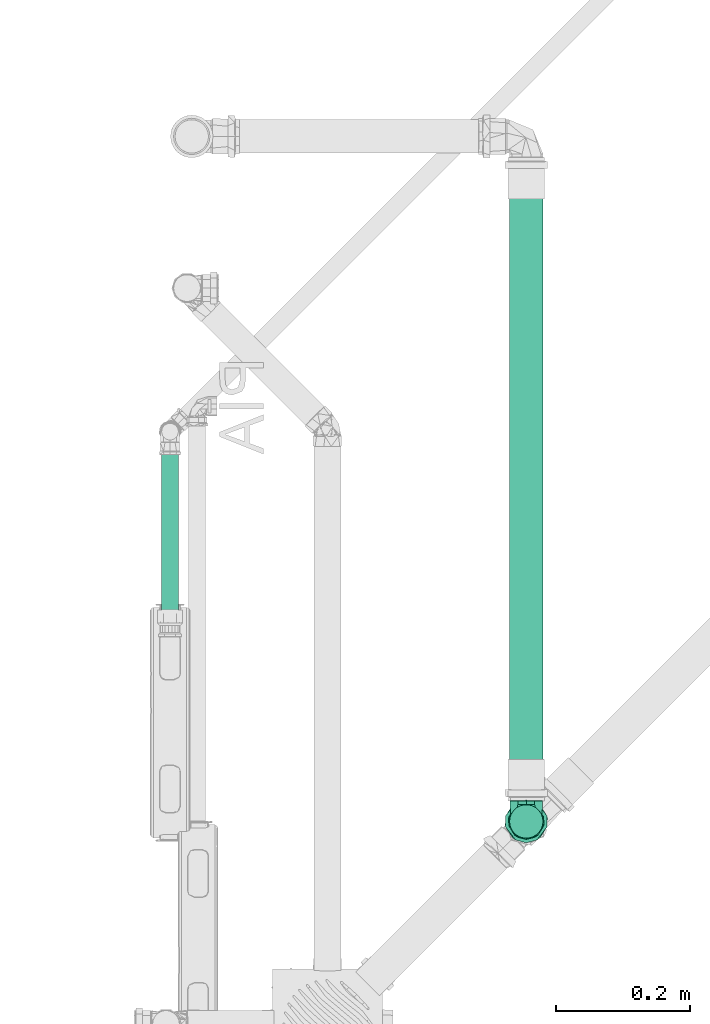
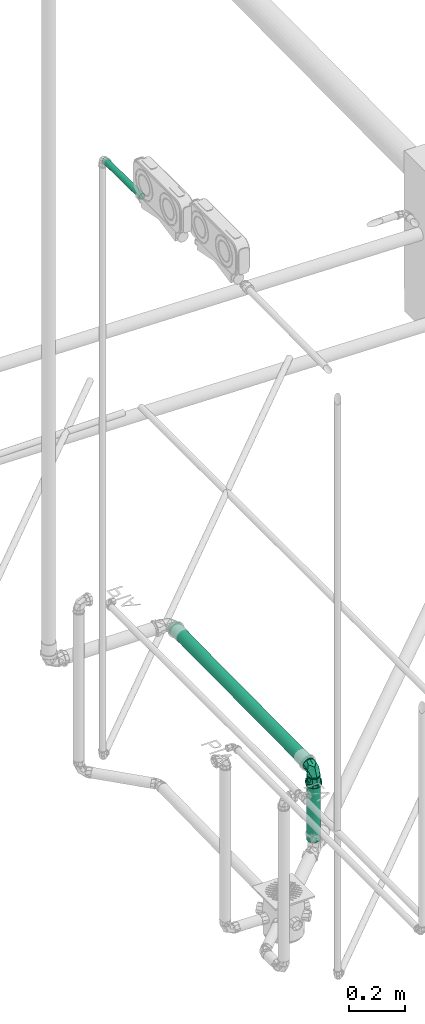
# One storey, part 199 of 589: 3 flow segments, 1 flow fitting.
"""IFC2X3 building model written with IfcOpenShell, lengths in millimetres."""

from ifc_helpers import new_model, entity, si_unit, converted_unit, derived_unit, direction, frame, frame_2d, origin, origin_2d_with_axis, place, context, subcontext, project, spatial, circle, extrude, faceted_brep, source, transform, mapped, material, type_object, type_shapes, element, save


model = new_model("IFC2X3")

# Units and contexts
model_context = context("Model", 3, precision=0.01, world=origin(), true_north=direction((6.123031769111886e-17, 1.0)))
body_context = subcontext(model_context, "Body", "Model", "MODEL_VIEW")
ifc_project = project(units=[si_unit("LENGTHUNIT", "METRE", prefix="MILLI"), si_unit("AREAUNIT", "SQUARE_METRE"), si_unit("VOLUMEUNIT", "CUBIC_METRE"), converted_unit("PLANEANGLEUNIT", "DEGREE", entity("IfcRatioMeasure", 0.017453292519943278), si_unit("PLANEANGLEUNIT", "RADIAN"), dimensions=[0, 0, 0, 0, 0, 0, 0]), si_unit("MASSUNIT", "GRAM", prefix="KILO"), derived_unit("MASSDENSITYUNIT", [(si_unit("MASSUNIT", "GRAM", prefix="KILO"), 1), (si_unit("LENGTHUNIT", "METRE"), -3)]), derived_unit("IONCONCENTRATIONUNIT", [(si_unit("MASSUNIT", "GRAM", prefix="KILO"), 1), (si_unit("LENGTHUNIT", "METRE"), -3)]), derived_unit("MOMENTOFINERTIAUNIT", [(si_unit("LENGTHUNIT", "METRE"), 4)]), si_unit("TIMEUNIT", "SECOND"), si_unit("FREQUENCYUNIT", "HERTZ"), si_unit("THERMODYNAMICTEMPERATUREUNIT", "DEGREE_CELSIUS"), derived_unit("THERMALTRANSMITTANCEUNIT", [(si_unit("MASSUNIT", "GRAM", prefix="KILO"), 1), (si_unit("THERMODYNAMICTEMPERATUREUNIT", "KELVIN"), -1), (si_unit("TIMEUNIT", "SECOND"), -3)]), derived_unit("THERMALCONDUCTANCEUNIT", [(si_unit("MASSUNIT", "GRAM", prefix="KILO"), 1), (si_unit("THERMODYNAMICTEMPERATUREUNIT", "KELVIN"), -1), (si_unit("TIMEUNIT", "SECOND"), -3), (si_unit("LENGTHUNIT", "METRE"), 1)]), derived_unit("VOLUMETRICFLOWRATEUNIT", [(si_unit("LENGTHUNIT", "METRE"), 3), (si_unit("TIMEUNIT", "SECOND"), -1)]), derived_unit("MASSFLOWRATEUNIT", [(si_unit("MASSUNIT", "GRAM", prefix="KILO"), 1), (si_unit("TIMEUNIT", "SECOND"), -1)]), derived_unit("ROTATIONALFREQUENCYUNIT", [(si_unit("TIMEUNIT", "SECOND"), -1)]), si_unit("ELECTRICCURRENTUNIT", "AMPERE"), si_unit("ELECTRICVOLTAGEUNIT", "VOLT"), si_unit("POWERUNIT", "WATT"), si_unit("FORCEUNIT", "NEWTON", prefix="KILO"), si_unit("ILLUMINANCEUNIT", "LUX"), si_unit("LUMINOUSFLUXUNIT", "LUMEN"), si_unit("LUMINOUSINTENSITYUNIT", "CANDELA"), derived_unit("USERDEFINED", [(si_unit("MASSUNIT", "GRAM", prefix="KILO"), -1), (si_unit("LENGTHUNIT", "METRE"), -2), (si_unit("TIMEUNIT", "SECOND"), 3), (si_unit("LUMINOUSFLUXUNIT", "LUMEN"), 1)]), derived_unit("USERDEFINED", [(si_unit("MASSUNIT", "GRAM", prefix="KILO"), 1), (si_unit("TIMEUNIT", "SECOND"), -3), (si_unit("LENGTHUNIT", "METRE"), 3), (si_unit("ELECTRICCURRENTUNIT", "AMPERE"), -2)]), derived_unit("SOUNDPOWERUNIT", [(si_unit("MASSUNIT", "GRAM", prefix="KILO"), 1), (si_unit("TIMEUNIT", "SECOND"), -3), (si_unit("LENGTHUNIT", "METRE"), 2)]), derived_unit("SOUNDPRESSUREUNIT", [(si_unit("MASSUNIT", "GRAM", prefix="KILO"), 1), (si_unit("LENGTHUNIT", "METRE"), -1), (si_unit("TIMEUNIT", "SECOND"), -2)]), derived_unit("LINEARVELOCITYUNIT", [(si_unit("LENGTHUNIT", "METRE"), 1), (si_unit("TIMEUNIT", "SECOND"), -1)]), si_unit("PRESSUREUNIT", "PASCAL"), derived_unit("USERDEFINED", [(si_unit("MASSUNIT", "GRAM", prefix="KILO"), 1), (si_unit("LENGTHUNIT", "METRE"), -2), (si_unit("TIMEUNIT", "SECOND"), -2)]), derived_unit("LINEARFORCEUNIT", [(si_unit("MASSUNIT", "GRAM", prefix="KILO"), 1), (si_unit("TIMEUNIT", "SECOND"), -2)]), derived_unit("PLANARFORCEUNIT", [(si_unit("MASSUNIT", "GRAM", prefix="KILO"), 1), (si_unit("LENGTHUNIT", "METRE"), -1), (si_unit("TIMEUNIT", "SECOND"), -2)]), derived_unit("SPECIFICHEATCAPACITYUNIT", [(si_unit("THERMODYNAMICTEMPERATUREUNIT", "KELVIN"), -1), (si_unit("LENGTHUNIT", "METRE"), 2), (si_unit("TIMEUNIT", "SECOND"), -2)]), derived_unit("HEATINGVALUEUNIT", [(si_unit("LENGTHUNIT", "METRE"), 2), (si_unit("TIMEUNIT", "SECOND"), -2)]), derived_unit("VAPORPERMEABILITYUNIT", [(si_unit("LENGTHUNIT", "METRE"), -1), (si_unit("TIMEUNIT", "SECOND"), 1)]), derived_unit("DYNAMICVISCOSITYUNIT", [(si_unit("MASSUNIT", "GRAM", prefix="KILO"), 1), (si_unit("TIMEUNIT", "SECOND"), -1), (si_unit("LENGTHUNIT", "METRE"), -1)]), derived_unit("THERMALEXPANSIONCOEFFICIENTUNIT", [(si_unit("THERMODYNAMICTEMPERATUREUNIT", "KELVIN"), -1)]), derived_unit("MODULUSOFELASTICITYUNIT", [(si_unit("MASSUNIT", "GRAM", prefix="KILO"), 1), (si_unit("LENGTHUNIT", "METRE"), -1), (si_unit("TIMEUNIT", "SECOND"), -2)]), derived_unit("ISOTHERMALMOISTURECAPACITYUNIT", [(si_unit("LENGTHUNIT", "METRE"), 3), (si_unit("MASSUNIT", "GRAM", prefix="KILO"), -1)]), derived_unit("MOISTUREDIFFUSIVITYUNIT", [(si_unit("TIMEUNIT", "SECOND"), -1), (si_unit("LENGTHUNIT", "METRE"), 2)])], contexts=[model_context])

# Site, building, storey
site_placement = place(None, origin())
site = spatial("IfcSite", under=ifc_project, at=site_placement, Name="Default", CompositionType="ELEMENT")
building_placement = place(site_placement, origin())
building = spatial("IfcBuilding", under=site, at=building_placement, CompositionType="ELEMENT")
storey_placement = place(building_placement, frame((0.0, 0.0, 100.0)))
storey = spatial("IfcBuildingStorey", under=building, at=storey_placement, Name="TÉRREO", CompositionType="ELEMENT", Elevation=100.0)

# Flow segments
pipe_segment_type_1 = type_object("IfcPipeSegmentType", Name="Tipos de tubos:PVC Esgoto Série Normal", PredefinedType="NOTDEFINED")
flow_segment_1_placement = place(storey_placement, origin())
element("IfcFlowSegment", 1, at=flow_segment_1_placement, inside=storey, type_object=pipe_segment_type_1, Name="Tipos de tubos:PVC Esgoto Série Normal", ObjectType="Tipos de tubos:PVC Esgoto Série Normal", context=body_context, shape_type="SweptSolid", body=[
    extrude(circle(Radius=25.0, at=frame_2d((0.0, -3.383790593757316e-14), x_axis=(1.0, 0.0))), frame((7846.407235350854, -142.1218718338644, 83.51027720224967), z_axis=(0.0, 0.9999500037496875, 0.00999950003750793), x_axis=(1.0, 0.0, 0.0)), (0.0, 0.0, 1.0), 961.8331392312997),
])
flow_segment_2_placement = place(storey_placement, origin())
element("IfcFlowSegment", 2, at=flow_segment_2_placement, inside=storey, type_object=pipe_segment_type_1, Name="Tipos de tubos:PVC Esgoto Série Normal", ObjectType="Tipos de tubos:PVC Esgoto Série Normal", context=body_context, shape_type="SweptSolid", body=[
    extrude(circle(Radius=25.0, at=frame_2d((0.0, -3.38395975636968e-14), x_axis=(1.0, 0.0))), frame((7846.407229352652, -173.02961605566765, -224.16125370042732), z_axis=(2.1699526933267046e-08, -0.00011579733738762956, 0.9999999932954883), x_axis=(-1.0, 0.0, 2.1699527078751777e-08)), (0.0, 0.0, 1.0), 276.42083525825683),
])
pipe_segment_type_2 = type_object("IfcPipeSegmentType", Name="Tipos de tubos:PVC Marrom Soldável", PredefinedType="NOTDEFINED")
flow_segment_3_placement = place(storey_placement, origin())
element("IfcFlowSegment", 3, at=flow_segment_3_placement, inside=storey, type_object=pipe_segment_type_2, Name="Tipos de tubos:PVC Marrom Soldável", ObjectType="Tipos de tubos:PVC Marrom Soldável", context=body_context, shape_type="SweptSolid", body=[
    extrude(circle(Radius=12.5, at=origin_2d_with_axis()), frame((7313.896183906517, 127.03116810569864, 2579.1995800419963), z_axis=(0.0, 0.9999500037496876, -0.00999950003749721), x_axis=(1.0, 0.0, 0.0)), (0.0, 0.0, 1.0), 266.09704621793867),
])

# Flow fitting
ifc_material = material(Name="PVC Série Normal")
pipe_fitting_type = type_object("IfcPipeFittingType", Name="PVC Esgoto_Joelho 45_90_Rodrigo MEP:a. Série Normal", PredefinedType="NOTDEFINED", material=ifc_material)
shared_shape = source(origin(), body_context, "Body", "Brep", [
    faceted_brep([(25.256150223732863, -25.490025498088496, 0.0), (21.906952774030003, -25.52351747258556, -12.500000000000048), (6.727552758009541, -25.675311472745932, -24.14814565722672), (-6.21275249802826, -25.804714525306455, -24.1481456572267), (-21.392152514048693, -25.956508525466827, -12.499999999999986), (-24.741349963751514, -25.990000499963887, 0.0), (-21.392152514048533, -25.95650852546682, 12.500000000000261), (-6.212752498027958, -25.804714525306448, 24.14814565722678), (6.7275527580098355, -25.675311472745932, 24.148145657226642), (21.906952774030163, -25.52351747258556, 12.499999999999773), (-6.160755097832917, -31.00445454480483, 24.14814565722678), (-21.340155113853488, -31.1562485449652, 12.500000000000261), (-24.689352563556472, -31.18974051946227, 0.0), (-21.34015511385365, -31.156248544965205, -12.499999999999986), (-6.160755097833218, -31.004454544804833, -24.1481456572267), (6.779550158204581, -30.87505149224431, -24.14814565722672), (21.958950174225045, -30.72325749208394, -12.500000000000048), (25.308147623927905, -30.689765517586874, 0.0), (21.958950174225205, -30.72325749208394, 12.499999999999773), (6.779550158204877, -30.87505149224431, 24.148145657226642)], [[[0, 1, 2, 3, 4, 5, 6, 7, 8, 9]], [[10, 11, 12, 13, 14, 15, 16, 17, 18, 19]], [[18, 17, 0, 9]], [[19, 18, 9, 8]], [[8, 7, 10, 19]], [[11, 10, 7, 6]], [[12, 11, 6, 5]], [[13, 12, 5, 4]], [[14, 13, 4, 3]], [[3, 2, 15, 14]], [[16, 15, 2, 1]], [[17, 16, 1, 0]]]),
    faceted_brep([(-70.94129996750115, -6.4704761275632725, -24.148145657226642), (-70.94129996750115, 6.47047612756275, -24.14814565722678), (-70.94129996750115, 6.988114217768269, -26.07999730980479), (-70.94129996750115, -6.988114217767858, -26.0799973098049), (-70.94129996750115, -21.6506350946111, -12.499999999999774), (-70.94129996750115, 23.382685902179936, -13.499999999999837), (-70.94129996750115, 21.650635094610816, -12.500000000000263), (-70.94129996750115, 25.0, 0.0), (-70.94129996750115, 27.0, 0.0), (-70.94129996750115, 21.650635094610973, 12.499999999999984), (-70.94129996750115, 23.382685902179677, 13.500000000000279), (-70.94129996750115, 6.470476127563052, 24.1481456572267), (-70.94129996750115, 6.98811421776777, 26.079997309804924), (-70.94129996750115, -6.470476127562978, 24.14814565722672), (-70.94129996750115, -6.988114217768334, 26.07999730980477), (-70.94129996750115, -21.650635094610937, 12.500000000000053), (-70.94129996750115, -23.38268590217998, 13.499999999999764), (-70.94129996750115, -27.0, 0.0), (-70.94129996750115, -25.0, 0.0), (-70.94129996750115, -23.382685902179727, -13.500000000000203), (-30.94129996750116, -25.0, 0.0), (-30.94129996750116, -21.650635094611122, -12.499999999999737), (-30.94129996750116, -6.4704761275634, -24.148145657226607), (-30.94129996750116, 6.470476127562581, -24.148145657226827), (-30.94129996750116, 21.650635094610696, -12.500000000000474), (-30.94129996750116, 25.0, 0.0), (-30.94129996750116, 21.65063509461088, 12.500000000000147), (-30.94129996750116, 6.470476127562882, 24.14814565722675), (-30.94129996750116, -6.470476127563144, 24.148145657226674), (-30.94129996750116, -21.650635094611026, 12.499999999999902), (-30.94129996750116, -27.0, 0.0), (-30.941299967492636, -20.682232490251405, 17.356418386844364), (-30.941299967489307, -7.995013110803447, 21.972787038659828), (-30.941299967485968, 4.692206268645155, 26.589155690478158), (-30.94129996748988, 20.686585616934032, 17.35122979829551), (-30.94129996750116, 27.0, 0.0), (-30.94129996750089, 20.686585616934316, -17.35122979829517), (-30.941299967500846, 8.000524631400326, -21.970780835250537), (-30.941299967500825, -4.6855363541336, -26.59033187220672), (-30.94129996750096, -20.682232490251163, -17.356418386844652), (-28.741299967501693, -4.344635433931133, -24.619588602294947), (-28.741299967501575, -19.15424594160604, -16.06595351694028), (-28.741299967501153, -25.0, 0.0), (-28.741299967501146, 25.0, 0.0), (-28.74129996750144, 19.15021526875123, -16.07075776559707), (-28.74129996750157, 7.402789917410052, -20.345173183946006), (-28.741299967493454, 19.150215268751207, 16.070757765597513), (-28.741299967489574, -7.407893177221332, 20.34331558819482), (-28.741299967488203, 4.338459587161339, 24.620677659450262), (-28.741299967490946, -19.154245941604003, 16.065953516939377), (-25.741299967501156, -25.0, 0.0), (-25.741299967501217, -19.151286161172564, 16.069481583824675), (-25.7412999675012, -7.405117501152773, 20.34485121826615), (-25.741299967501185, 4.3410511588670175, 24.620220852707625), (-25.741299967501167, 19.15106105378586, 16.069749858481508), (-25.741299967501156, 25.0, 0.0), (-25.741299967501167, 19.15106105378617, -16.069749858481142), (-25.741299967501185, 7.4048325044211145, -20.344954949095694), (-25.741299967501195, -4.341396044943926, -24.620160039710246), (-25.741299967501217, -19.15128616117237, -16.069481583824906), (21.90695277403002, -25.523517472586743, -12.500000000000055), (25.256150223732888, -25.490025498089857, 0.0), (21.906952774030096, -25.52351747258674, 12.499999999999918), (6.7275527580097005, -25.67531147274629, 24.148145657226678), (-6.2127524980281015, -25.80471452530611, 24.14814565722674), (-21.3921525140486, -25.956508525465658, 12.500000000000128), (-24.74134996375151, -25.990000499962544, 0.0), (-21.39215251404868, -25.95650852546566, -12.499999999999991), (-6.212752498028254, -25.80471452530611, -24.1481456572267), (6.727552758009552, -25.67531147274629, -24.14814565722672), (-0.875171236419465, -1.4332887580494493, 23.341145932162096), (-3.2027279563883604, 15.730161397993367, 0.0), (16.135012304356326, -8.632944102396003, 15.848254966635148), (10.140389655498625, 10.242300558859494, 0.0), (-25.03773742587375, -25.289366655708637, 0.0), (15.761400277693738, -3.0452732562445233, 0.0), (16.13501175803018, -8.632944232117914, -15.848255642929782), (-0.8358007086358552, -1.5246709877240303, -23.354961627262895)], [[[0, 1, 2]], [[2, 3, 0]], [[4, 0, 3]], [[5, 2, 1]], [[1, 6, 5]], [[6, 7, 5]], [[8, 5, 7]], [[8, 7, 9]], [[10, 8, 9]], [[9, 11, 10]], [[11, 12, 10]], [[13, 12, 11]], [[12, 13, 14]], [[13, 15, 14]], [[16, 14, 15]], [[16, 15, 17]], [[17, 15, 18]], [[18, 4, 19]], [[17, 18, 19]], [[3, 19, 4]], [[4, 18, 20, 21]], [[0, 4, 21, 22]], [[22, 23, 1, 0]], [[6, 1, 23, 24]], [[7, 6, 24, 25]], [[9, 7, 25, 26]], [[11, 9, 26, 27]], [[27, 28, 13, 11]], [[15, 13, 28, 29]], [[18, 15, 29, 20]], [[30, 16, 17]], [[30, 31, 16]], [[14, 16, 31]], [[14, 31, 32, 33]], [[10, 12, 34]], [[8, 10, 35]], [[33, 34, 12]], [[35, 10, 34]], [[14, 33, 12]], [[35, 5, 8]], [[35, 36, 5]], [[2, 5, 36]], [[2, 36, 37, 38]], [[19, 3, 39]], [[17, 19, 30]], [[38, 39, 3]], [[30, 19, 39]], [[2, 38, 3]], [[28, 27, 26, 25, 24, 23, 22, 21, 20, 29]], [[39, 40, 41]], [[30, 41, 42]], [[39, 41, 30]], [[39, 38, 40]], [[36, 43, 44]], [[37, 36, 44]], [[40, 38, 45]], [[43, 36, 35]], [[37, 45, 38]], [[37, 44, 45]], [[34, 46, 43]], [[43, 35, 34]], [[46, 34, 33]], [[47, 32, 31]], [[33, 48, 46]], [[30, 42, 49]], [[49, 47, 31]], [[30, 49, 31]], [[33, 32, 48]], [[47, 48, 32]], [[50, 49, 42]], [[50, 51, 49]], [[48, 52, 53]], [[47, 51, 52]], [[47, 52, 48]], [[47, 49, 51]], [[54, 43, 46]], [[53, 54, 46]], [[55, 43, 54]], [[48, 53, 46]], [[56, 44, 43]], [[55, 56, 43]], [[56, 57, 44]], [[57, 45, 44]], [[57, 58, 45]], [[40, 45, 58]], [[59, 41, 40]], [[59, 50, 41]], [[42, 41, 50]], [[58, 59, 40]], [[60, 61, 62, 63, 64, 65, 66, 67, 68, 69]], [[70, 53, 52, 51]], [[70, 71, 54]], [[71, 55, 54]], [[70, 72, 73]], [[74, 65, 50]], [[50, 65, 51]], [[53, 70, 54]], [[71, 70, 73]], [[62, 61, 75]], [[72, 70, 63]], [[62, 75, 72]], [[66, 65, 74]], [[63, 62, 72]], [[64, 51, 65]], [[51, 64, 70]], [[75, 73, 72]], [[70, 64, 63]], [[75, 76, 73]], [[56, 55, 71]], [[68, 59, 77]], [[58, 77, 59]], [[56, 71, 77]], [[77, 58, 57, 56]], [[76, 69, 77]], [[67, 50, 59]], [[67, 66, 74]], [[73, 77, 71]], [[59, 68, 67]], [[76, 75, 60]], [[75, 61, 60]], [[76, 77, 73]], [[60, 69, 76]], [[77, 69, 68]], [[74, 50, 67]]]),
    faceted_brep([(-53.94129996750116, 8.282209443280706, -30.909626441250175), (-53.94129996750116, 6.988114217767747, -26.079997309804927), (-53.94129996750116, -6.9881142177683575, -26.07999730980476), (-53.94129996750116, 27.712812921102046, -16.0), (-53.94129996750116, -8.28220944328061, -30.9096264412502), (-53.94129996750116, 23.38268590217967, -13.500000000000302), (-53.94129996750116, 27.0, 0.0), (-53.94129996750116, 32.0, 0.0), (-53.94129996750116, 23.382685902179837, 13.500000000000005), (-53.94129996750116, 27.712812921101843, 16.0), (-53.94129996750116, 6.988114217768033, 26.07999730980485), (-53.94129996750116, 8.28220944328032, 30.909626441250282), (-53.94129996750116, -6.988114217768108, 26.07999730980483), (-53.94129996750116, -8.282209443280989, 30.909626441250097), (-53.94129996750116, -23.382685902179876, 13.499999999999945), (-53.94129996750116, -27.712812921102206, 16.0), (-53.94129996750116, -32.0, 0.0), (-53.94129996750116, -27.0, 0.0), (-53.94129996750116, -27.712812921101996, -16.0), (-53.94129996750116, -23.38268590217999, -13.499999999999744), (-63.94129996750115, -23.38268590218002, -13.499999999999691), (-63.94129996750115, -25.19134295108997, -6.750000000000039), (-65.24129996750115, -27.0, 0.0), (-63.94129996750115, -27.0, 0.0), (-63.94129996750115, -6.988114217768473, -26.07999730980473), (-63.94129996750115, -11.086757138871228, -22.934997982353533), (-63.94129996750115, -15.185400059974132, -19.789998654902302), (-63.94129996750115, -19.284042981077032, -16.644999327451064), (-63.94129996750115, 6.988114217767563, -26.079997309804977), (-63.94129996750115, 0.0, -26.079997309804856), (-63.94129996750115, 23.382685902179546, -13.50000000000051), (-63.94129996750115, 19.284042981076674, -16.644999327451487), (-63.94129996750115, 15.185400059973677, -19.789998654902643), (-63.94129996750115, 11.086757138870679, -22.9349979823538), (-63.94129996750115, 27.0, 0.0), (-65.24129996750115, 27.0, 0.0), (-63.94129996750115, 25.191342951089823, -6.749999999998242), (-63.94129996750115, 23.382685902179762, 13.500000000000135), (-63.94129996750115, 25.191342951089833, 6.7500000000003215), (-63.94129996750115, 6.988114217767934, 26.079997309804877), (-63.94129996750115, 11.086757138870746, 22.934997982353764), (-63.94129996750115, 15.185400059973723, 19.7899986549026), (-63.94129996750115, 19.284042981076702, 16.64499932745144), (-63.94129996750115, -6.988114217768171, 26.079997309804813), (-63.94129996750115, 0.0, 26.079997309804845), (-63.94129996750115, -23.382685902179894, 13.499999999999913), (-63.94129996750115, -19.284042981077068, 16.644999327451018), (-63.94129996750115, -15.185400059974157, 19.789998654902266), (-63.94129996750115, -11.086757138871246, 22.93499798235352), (-63.94129996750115, -25.19134295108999, 6.749999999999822), (-63.94129996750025, -24.512275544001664, 20.570569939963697), (-63.94129996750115, -32.0, 0.0), (-63.94129996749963, -5.553228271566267, 31.51446740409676), (-63.94129996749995, 24.51743480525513, 20.56442050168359), (-63.94129996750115, 32.0, 0.0), (-63.9412999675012, 24.51743480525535, -20.564420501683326), (-63.94129996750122, 5.561133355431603, -31.513073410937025), (-63.94129996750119, -24.512275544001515, -20.570569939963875), (-65.24129996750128, 20.686585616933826, -17.351229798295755), (-65.24129996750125, -20.6822324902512, -17.356418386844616), (-65.24129996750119, -23.841116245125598, -8.678209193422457), (-65.24129996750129, 14.343555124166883, -19.661005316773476), (-65.24129996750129, 8.00052463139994, -21.970780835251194), (-65.2412999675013, 1.6574941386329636, -24.280556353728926), (-65.24129996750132, -4.685536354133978, -26.590331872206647), (-65.24129996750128, -12.683884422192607, -21.973375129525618), (-65.2412999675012, 23.84329280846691, -8.675614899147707), (-65.24129996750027, -20.68223249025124, 17.35641838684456), (-65.24129996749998, 20.68658561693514, 17.351229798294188), (-65.24129996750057, 23.843292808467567, 8.67561489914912), (-65.2412999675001, -14.338622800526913, 19.664602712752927), (-65.24129996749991, -7.995013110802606, 21.97278703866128), (-65.24129996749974, -1.6514034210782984, 24.28097136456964), (-65.24129996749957, 4.692206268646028, 26.58915569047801), (-65.24129996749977, 12.689395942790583, 21.9701927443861), (-65.24129996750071, -23.84111624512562, 8.678209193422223)], [[[0, 1, 2]], [[1, 0, 3]], [[2, 4, 0]], [[3, 5, 1]], [[3, 6, 5]], [[6, 3, 7]], [[8, 6, 7]], [[8, 7, 9]], [[9, 10, 8]], [[9, 11, 10]], [[10, 11, 12]], [[13, 12, 11]], [[13, 14, 12]], [[14, 13, 15]], [[16, 14, 15]], [[17, 14, 16]], [[18, 17, 16]], [[18, 19, 17]], [[19, 18, 4]], [[4, 2, 19]], [[20, 21, 22, 23, 17, 19]], [[24, 25, 26, 27, 20, 19, 2]], [[2, 1, 28, 29, 24]], [[30, 31, 32, 33, 28, 1, 5]], [[34, 35, 36, 30, 5, 6]], [[37, 38, 35, 34, 6, 8]], [[39, 40, 41, 42, 37, 8, 10]], [[10, 12, 43, 44, 39]], [[45, 46, 47, 48, 43, 12, 14]], [[23, 22, 49, 45, 14, 17]], [[15, 50, 51]], [[16, 15, 51]], [[13, 50, 15]], [[13, 52, 50]], [[53, 52, 11]], [[54, 53, 9]], [[11, 9, 53]], [[7, 54, 9]], [[13, 11, 52]], [[3, 55, 54]], [[7, 3, 54]], [[0, 55, 3]], [[0, 56, 55]], [[57, 56, 4]], [[51, 57, 18]], [[4, 18, 57]], [[16, 51, 18]], [[0, 4, 56]], [[58, 32, 31, 30]], [[59, 60, 20]], [[33, 61, 62]], [[32, 61, 33]], [[29, 63, 64]], [[24, 64, 65]], [[26, 59, 20, 27]], [[28, 63, 29]], [[64, 24, 29]], [[62, 28, 33]], [[24, 65, 26, 25]], [[22, 21, 60]], [[35, 66, 36]], [[32, 58, 61]], [[62, 63, 28]], [[58, 30, 66]], [[59, 26, 65]], [[66, 30, 36]], [[21, 20, 60]], [[67, 47, 46, 45]], [[68, 69, 37]], [[48, 70, 71]], [[47, 70, 48]], [[44, 72, 73]], [[39, 73, 74]], [[41, 68, 37, 42]], [[43, 72, 44]], [[73, 39, 44]], [[71, 43, 48]], [[39, 74, 41, 40]], [[35, 38, 69]], [[22, 75, 49]], [[47, 67, 70]], [[71, 72, 43]], [[67, 45, 75]], [[68, 41, 74]], [[75, 45, 49]], [[38, 37, 69]], [[54, 55, 58, 66, 35]], [[58, 55, 56]], [[56, 64, 63, 62, 61, 58]], [[57, 59, 65, 64]], [[51, 22, 60, 59, 57]], [[56, 57, 64]], [[51, 50, 67, 75, 22]], [[67, 50, 52]], [[52, 73, 72, 71, 70, 67]], [[53, 68, 74, 73]], [[54, 35, 69, 68, 53]], [[52, 53, 73]]]),
])
type_shapes(pipe_fitting_type, [shared_shape])
flow_fitting_placement = place(storey_placement, frame((7846.407235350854, -173.06162485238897, 83.20087967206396), z_axis=(1.0, 0.0, 0.0), x_axis=(0.0, 0.0, 1.0)))
element("IfcFlowFitting", 4, at=flow_fitting_placement, inside=storey, type_object=pipe_fitting_type, material=ifc_material, Name="PVC Esgoto_Joelho 45_90_Rodrigo MEP:a. Série Normal", ObjectType="PVC Esgoto_Joelho 45_90_Rodrigo MEP:a. Série Normal", context=body_context, shape_type="MappedRepresentation", body=[
    mapped(shared_shape, transform((0.0, 0.0, 0.0), scale=1.0)),
])

save(model, "model.ifc")
